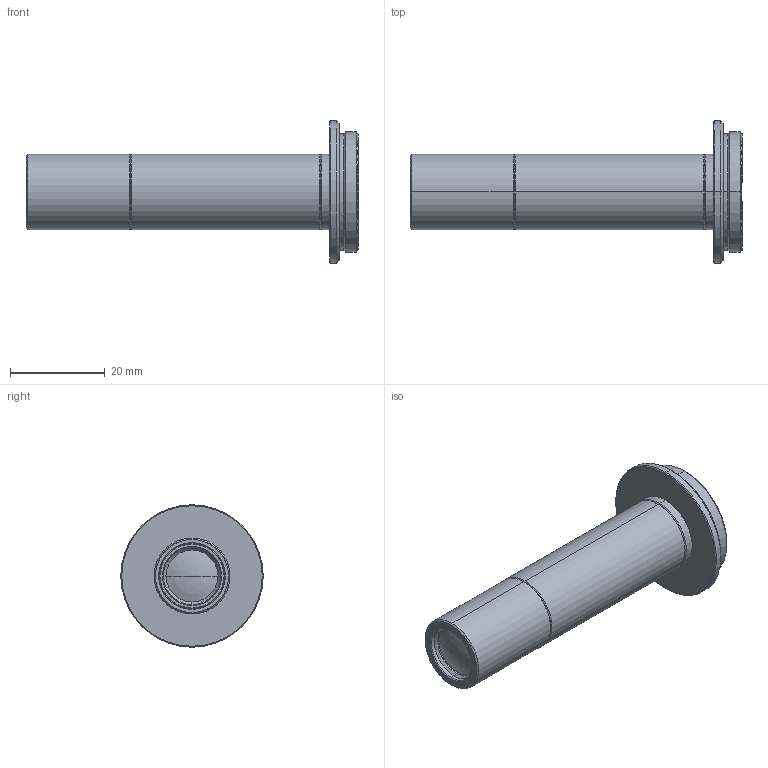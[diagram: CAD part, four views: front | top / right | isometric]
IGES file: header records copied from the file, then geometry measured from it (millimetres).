
Start section: SolidWorks IGES file using analytic representation for surfaces
Global section: file name: \\192.168.200.11\Development\01 マクロレンズ\02 VS-MC series\03 ノンテレマクロ\075 VS-MC075-100\3D\VS-MC075-100.IGS; native system: SolidWorks 2014; preprocessor: SolidWorks 2014; author: gijutu-1; date: 140619.133547; units: millimetre
Bounding box: 69.95 x 30 x 30 mm (x, y, z)
Surface area: 7591.2 mm2 (no closed solid volume)
Topology: 0 solids, 0 shells, 96 faces, 1176 edges, 1174 vertices
Faces by surface type: revolution 84, bspline 12
